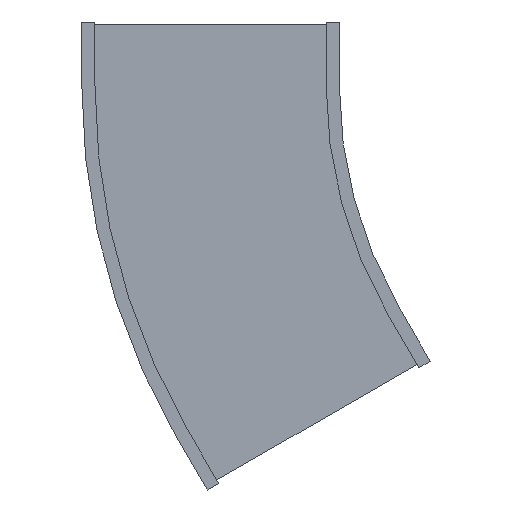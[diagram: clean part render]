
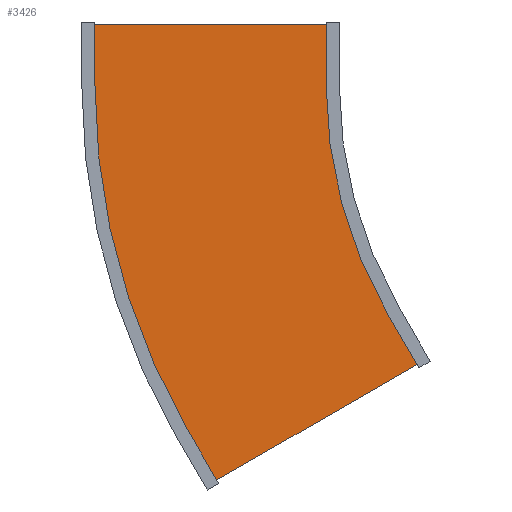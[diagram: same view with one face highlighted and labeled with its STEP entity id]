
A CAD part, front view. The second image highlights one B-rep face of the part: STEP entity #3426.
In plain terms, the highlighted planar face has unit normal (0, -1, 0).
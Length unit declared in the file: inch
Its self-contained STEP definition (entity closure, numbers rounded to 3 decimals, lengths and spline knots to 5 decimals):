
#3271=DIRECTION('',(0.,0.,1.));
#3272=VECTOR('',#3271,11.875);
#3273=CARTESIAN_POINT('',(-2.875,0.,-5.9375));
#3274=LINE('',#3273,#3272);
#3275=DIRECTION('',(1.,0.,0.));
#3276=VECTOR('',#3275,2.875);
#3277=CARTESIAN_POINT('',(-2.875,0.,5.9375));
#3278=LINE('',#3277,#3276);
#3279=CARTESIAN_POINT('',(0.,0.,27.));
#3280=DIRECTION('',(0.,-1.,0.));
#3281=DIRECTION('',(0.,0.,-1.));
#3282=AXIS2_PLACEMENT_3D('',#3279,#3280,#3281);
#3284=DIRECTION('',(0.866,0.,0.5));
#3285=VECTOR('',#3284,2.875);
#3286=CARTESIAN_POINT('',(10.53125,0.,8.75934));
#3287=LINE('',#3286,#3285);
#3288=DIRECTION('',(0.5,0.,-0.866));
#3289=VECTOR('',#3288,11.875);
#3290=CARTESIAN_POINT('',(13.02107,0.,10.19684));
#3291=LINE('',#3290,#3289);
#3292=DIRECTION('',(-0.866,0.,-0.5));
#3293=VECTOR('',#3292,2.875);
#3294=CARTESIAN_POINT('',(18.95857,0.,-0.08721));
#3295=LINE('',#3294,#3293);
#3296=CARTESIAN_POINT('',(0.,0.,27.));
#3297=DIRECTION('',(0.,1.,0.));
#3298=DIRECTION('',(0.5,0.,-0.866));
#3299=AXIS2_PLACEMENT_3D('',#3296,#3297,#3298);
#3301=DIRECTION('',(-1.,0.,0.));
#3302=VECTOR('',#3301,2.875);
#3303=CARTESIAN_POINT('',(0.,0.,-5.9375));
#3304=LINE('',#3303,#3302);
#3371=CARTESIAN_POINT('',(-2.875,0.,-5.9375));
#3372=CARTESIAN_POINT('',(-2.875,0.,5.9375));
#3373=VERTEX_POINT('',#3371);
#3374=VERTEX_POINT('',#3372);
#3375=CARTESIAN_POINT('',(0.,0.,5.9375));
#3376=VERTEX_POINT('',#3375);
#3377=CARTESIAN_POINT('',(10.53125,0.,8.75934));
#3378=VERTEX_POINT('',#3377);
#3379=CARTESIAN_POINT('',(13.02107,0.,10.19684));
#3380=VERTEX_POINT('',#3379);
#3381=CARTESIAN_POINT('',(18.95857,0.,-0.08721));
#3382=VERTEX_POINT('',#3381);
#3383=CARTESIAN_POINT('',(16.46875,0.,-1.52471));
#3384=VERTEX_POINT('',#3383);
#3385=CARTESIAN_POINT('',(0.,0.,-5.9375));
#3386=VERTEX_POINT('',#3385);
#3403=CARTESIAN_POINT('',(0.,0.,0.));
#3404=DIRECTION('',(0.,1.,0.));
#3405=DIRECTION('',(1.,0.,0.));
#3406=AXIS2_PLACEMENT_3D('',#3403,#3404,#3405);
#3407=PLANE('',#3406);
#3409=ORIENTED_EDGE('',*,*,#3408,.T.);
#3411=ORIENTED_EDGE('',*,*,#3410,.T.);
#3413=ORIENTED_EDGE('',*,*,#3412,.T.);
#3415=ORIENTED_EDGE('',*,*,#3414,.T.);
#3417=ORIENTED_EDGE('',*,*,#3416,.T.);
#3419=ORIENTED_EDGE('',*,*,#3418,.T.);
#3421=ORIENTED_EDGE('',*,*,#3420,.T.);
#3423=ORIENTED_EDGE('',*,*,#3422,.T.);
#3424=EDGE_LOOP('',(#3409,#3411,#3413,#3415,#3417,#3419,#3421,#3423));
#3425=FACE_OUTER_BOUND('',#3424,.F.);
#3426=ADVANCED_FACE('',(#3425),#3407,.F.);
#3283=CIRCLE('',#3282,21.0625);
#3300=CIRCLE('',#3299,32.9375);
#3408=EDGE_CURVE('',#3373,#3374,#3274,.T.);
#3410=EDGE_CURVE('',#3374,#3376,#3278,.T.);
#3412=EDGE_CURVE('',#3376,#3378,#3283,.T.);
#3414=EDGE_CURVE('',#3378,#3380,#3287,.T.);
#3416=EDGE_CURVE('',#3380,#3382,#3291,.T.);
#3418=EDGE_CURVE('',#3382,#3384,#3295,.T.);
#3420=EDGE_CURVE('',#3384,#3386,#3300,.T.);
#3422=EDGE_CURVE('',#3386,#3373,#3304,.T.);
